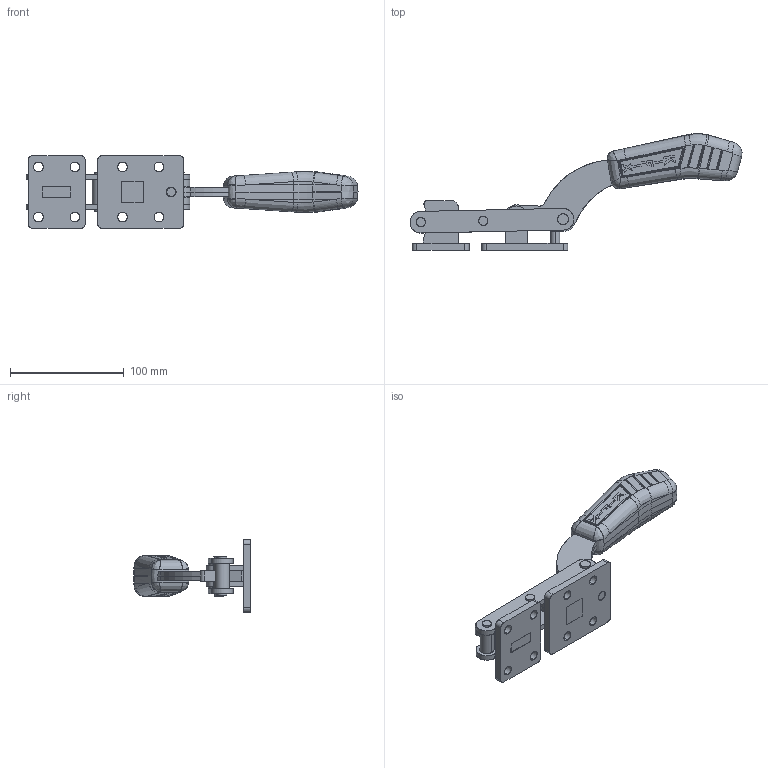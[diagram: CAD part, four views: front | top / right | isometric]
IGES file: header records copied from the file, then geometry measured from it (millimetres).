
Start section: SolidWorks IGES file using analytic representation for surfaces
Global section: file name: C:\Projetos\Grampos\KF-320\KF-320.IGS; native system: SolidWorks 2013; preprocessor: SolidWorks 2013; author: Ricardo; date: 140822.141139; units: millimetre
Bounding box: 291.77 x 102.67 x 64 mm (x, y, z)
Surface area: 91127.4 mm2 (no closed solid volume)
Topology: 0 solids, 0 shells, 612 faces, 7008 edges, 6985 vertices
Faces by surface type: bspline 341, revolution 271
